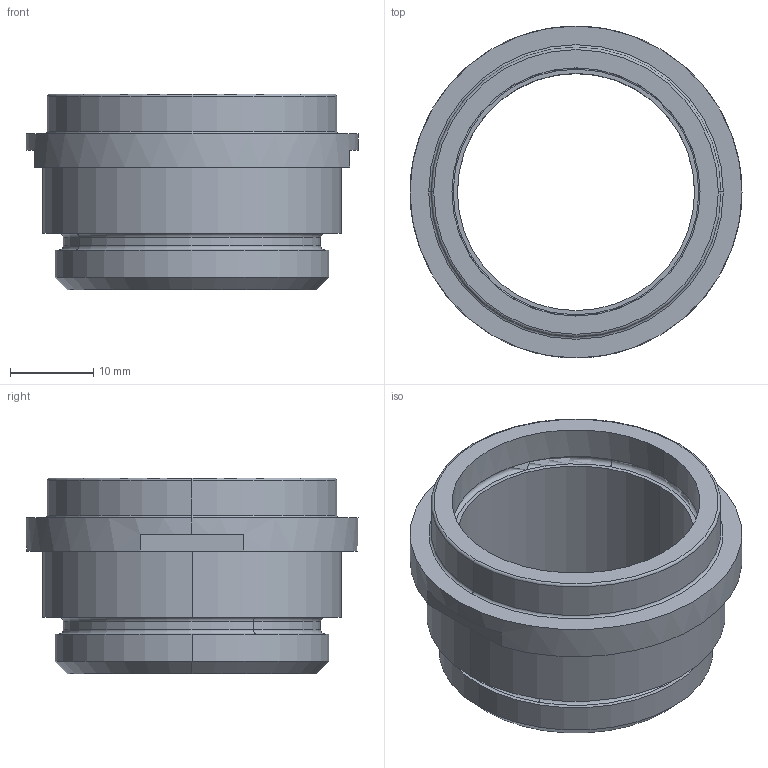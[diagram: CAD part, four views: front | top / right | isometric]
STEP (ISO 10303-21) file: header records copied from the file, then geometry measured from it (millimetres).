
FILE_DESCRIPTION(('CATIA V5 STEP Exchange'),'2;1');
FILE_NAME('C:\Users\Laurent\Desktop\Sujet National E33\CFAO Catia\Bague coulissantePh30.stp','2017-01-26T13:59:44+00:00',('none'),('none'),'CATIA Version 5 Release 19 GA (IN-10)','CATIA V5 STEP AP203','none');
FILE_SCHEMA(('CONFIG_CONTROL_DESIGN'));
Length unit declared in the file: millimetre
Products named in the file (1): Bague coulissante
Bounding box: 40 x 40 x 23.58 mm (x, y, z)
Volume: 7743.7 mm3; surface area: 6021.7 mm2
Topology: 1 solids, 1 shells, 39 faces, 84 edges, 52 vertices
Faces by surface type: cylinder 14, plane 11, torus 10, cone 4
Entity records: 1029 total; most frequent: CARTESIAN_POINT 177, ORIENTED_EDGE 168, DIRECTION 142, AXIS2_PLACEMENT_3D 89, EDGE_CURVE 84, CIRCLE 58, VERTEX_POINT 52, EDGE_LOOP 46
